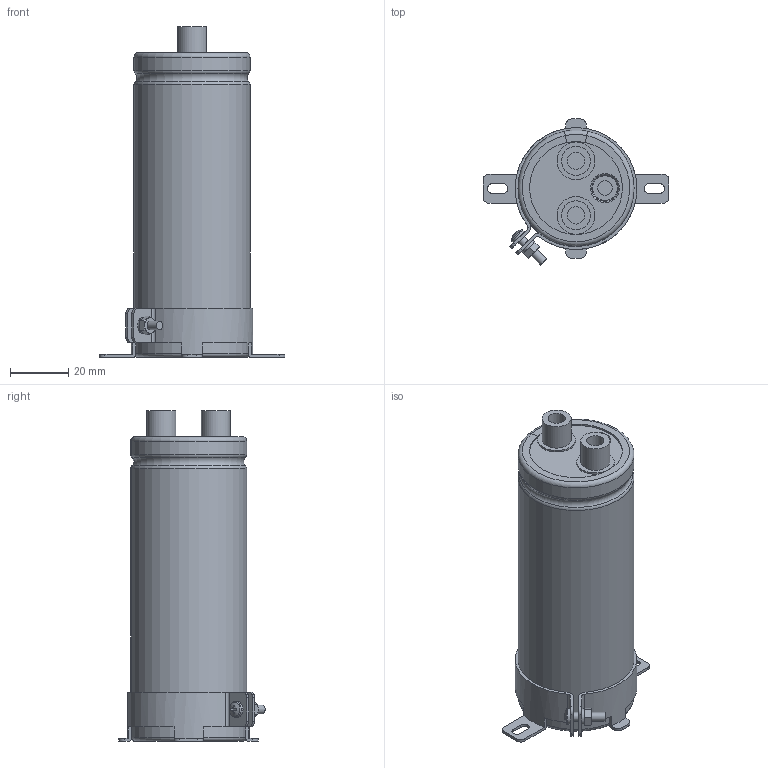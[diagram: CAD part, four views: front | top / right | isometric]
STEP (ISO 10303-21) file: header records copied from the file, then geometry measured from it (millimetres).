
FILE_DESCRIPTION(/* description */ (''),/* implementation_level */ '2;1');
FILE_NAME(/* name */ '40x105_Screw.stp',/* time_stamp */ '2017-09-06T16:37:18+09:00',/* author */ (''),/* organization */ (''),/* preprocessor_version */ 'ST-DEVELOPER v16',/* originating_system */ 'SIEMENS PLM Software NX 11.0',/* authorisation */ '');
FILE_SCHEMA (('AUTOMOTIVE_DESIGN { 1 0 10303 214 3 1 1 1 }'));
Length unit declared in the file: millimetre
Products named in the file (1): 40x105_Screw
Bounding box: 64 x 50.36 x 114 mm (x, y, z)
Volume: 133349.8 mm3; surface area: 49440.2 mm2
Topology: 9 solids, 9 shells, 256 faces, 636 edges, 409 vertices
Faces by surface type: plane 109, cylinder 65, torus 50, cone 31, sphere 1
Full cylindrical faces by diameter (mm): 3 x5, 5 x4, 5.5 x2, 6 x2, 10 x4, 13 x2, 38.8 x2
Entity records: 8385 total; most frequent: CARTESIAN_POINT 2097, DIRECTION 1286, ORIENTED_EDGE 1204, EDGE_CURVE 602, AXIS2_PLACEMENT_3D 541, VERTEX_POINT 404, EDGE_LOOP 310, CIRCLE 284
